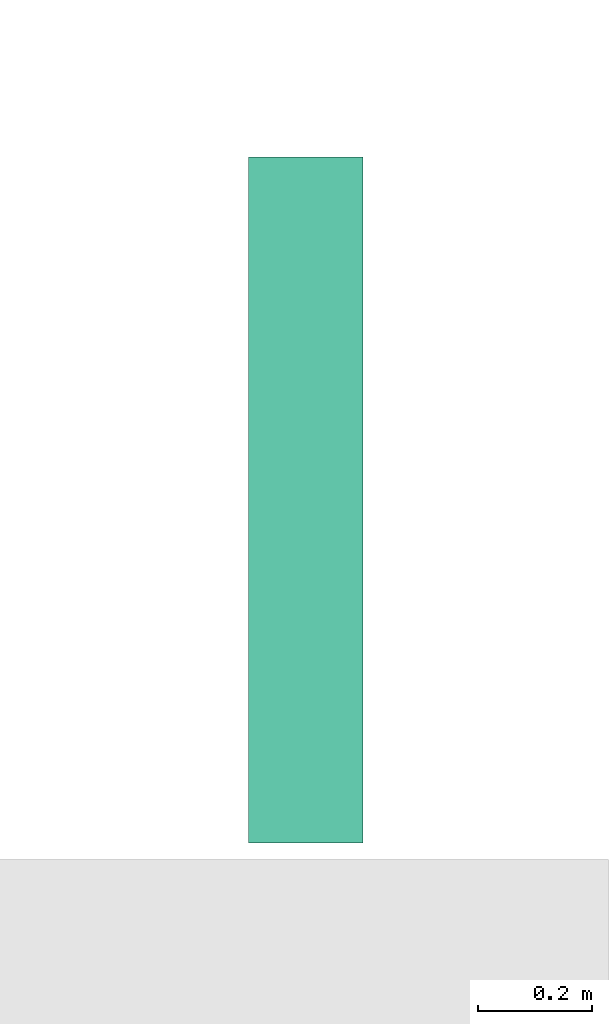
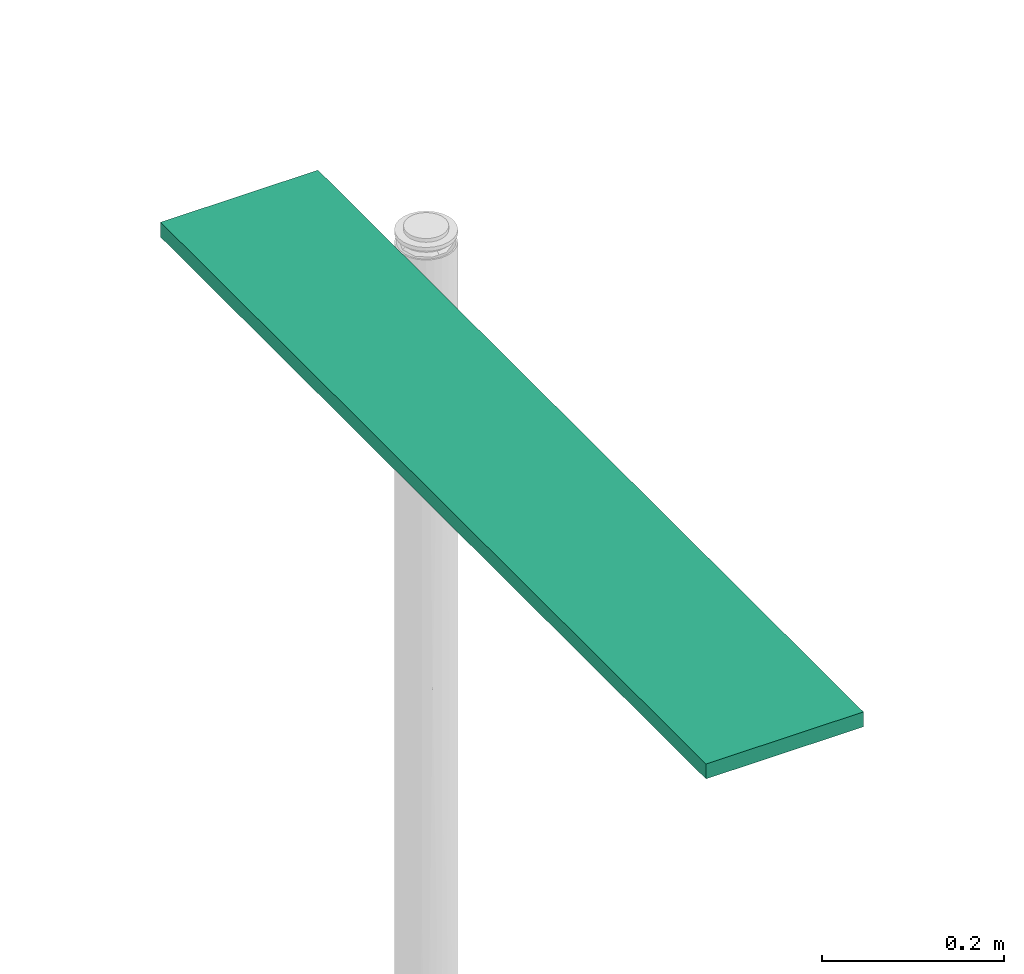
# One storey, part 2 of 153: 1 flow terminal.
"""IFC2X3 building model written with IfcOpenShell, lengths in metres."""

from ifc_helpers import new_model, entity, si_unit, converted_unit, derived_unit, direction, frame, origin, origin_2d_with_axis, place, context, subcontext, project, spatial, rectangle, extrude, source, transform, mapped, type_object, type_shapes, element, save


model = new_model("IFC2X3")

# Units and contexts
model_context = context("Model", 3, precision=1e-05, world=origin(), true_north=direction((6.12303176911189e-17, 1.0)))
body_context = subcontext(model_context, "Body", "Model", "MODEL_VIEW")
ifc_project = project(units=[si_unit("LENGTHUNIT", "METRE"), si_unit("AREAUNIT", "SQUARE_METRE"), si_unit("VOLUMEUNIT", "CUBIC_METRE"), converted_unit("PLANEANGLEUNIT", "DEGREE", entity("IfcRatioMeasure", 0.0174532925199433), si_unit("PLANEANGLEUNIT", "RADIAN"), dimensions=[0, 0, 0, 0, 0, 0, 0]), si_unit("MASSUNIT", "GRAM", prefix="KILO"), derived_unit("MASSDENSITYUNIT", [(si_unit("MASSUNIT", "GRAM", prefix="KILO"), 1), (si_unit("LENGTHUNIT", "METRE"), -3)]), si_unit("TIMEUNIT", "SECOND"), si_unit("FREQUENCYUNIT", "HERTZ"), si_unit("THERMODYNAMICTEMPERATUREUNIT", "DEGREE_CELSIUS"), derived_unit("THERMALTRANSMITTANCEUNIT", [(si_unit("MASSUNIT", "GRAM", prefix="KILO"), 1), (si_unit("THERMODYNAMICTEMPERATUREUNIT", "KELVIN"), -1), (si_unit("TIMEUNIT", "SECOND"), -3)]), derived_unit("VOLUMETRICFLOWRATEUNIT", [(si_unit("LENGTHUNIT", "METRE"), 3), (si_unit("TIMEUNIT", "SECOND"), -1)]), si_unit("ELECTRICCURRENTUNIT", "AMPERE"), si_unit("ELECTRICVOLTAGEUNIT", "VOLT"), si_unit("POWERUNIT", "WATT"), si_unit("FORCEUNIT", "NEWTON"), si_unit("ILLUMINANCEUNIT", "LUX"), si_unit("LUMINOUSFLUXUNIT", "LUMEN"), si_unit("LUMINOUSINTENSITYUNIT", "CANDELA"), derived_unit("USERDEFINED", [(si_unit("MASSUNIT", "GRAM", prefix="KILO"), -1), (si_unit("LENGTHUNIT", "METRE"), -2), (si_unit("TIMEUNIT", "SECOND"), 3), (si_unit("LUMINOUSFLUXUNIT", "LUMEN"), 1)]), derived_unit("LINEARVELOCITYUNIT", [(si_unit("LENGTHUNIT", "METRE"), 1), (si_unit("TIMEUNIT", "SECOND"), -1)]), si_unit("PRESSUREUNIT", "PASCAL"), derived_unit("USERDEFINED", [(si_unit("LENGTHUNIT", "METRE"), -2), (si_unit("MASSUNIT", "GRAM", prefix="KILO"), 1), (si_unit("TIMEUNIT", "SECOND"), -2)])], contexts=[model_context])

# Site, building, storey
site_placement = place(None, origin())
site = spatial("IfcSite", under=ifc_project, at=site_placement, Name="Default", CompositionType="ELEMENT")
building_placement = place(site_placement, origin())
building = spatial("IfcBuilding", under=site, at=building_placement, CompositionType="ELEMENT")
storey_placement = place(building_placement, frame((0.0, 0.0, -4.62)))
storey = spatial("IfcBuildingStorey", under=building, at=storey_placement, Name="S02", CompositionType="ELEMENT", Elevation=-4.62)

# Flow terminal
light_fixture_type = type_object("IfcLightFixtureType", Name="B_Réglete étanche", PredefinedType="NOTDEFINED")
shared_shape = source(origin(), body_context, "Body", "SweptSolid", [
    extrude(rectangle(XDim=0.199999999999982, YDim=1.2, at=origin_2d_with_axis()), frame((0.0, 0.0, 0.0), z_axis=(0.0, 0.0, 1.0), x_axis=(0.0, 1.0, 0.0)), (0.0, 0.0, 1.0), 0.02),
])
type_shapes(light_fixture_type, [shared_shape])
flow_terminal_placement = place(storey_placement, frame((40.6762323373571, -192.194621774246, 4.175), z_axis=(0.0, 0.0, -1.0), x_axis=(0.0, -1.0, 0.0)))
element("IfcFlowTerminal", 1, at=flow_terminal_placement, inside=storey, type_object=light_fixture_type, Name="II_PREF_Type B Réglette étanche:B_Réglete étanche", ObjectType="II_PREF_Type B Réglette étanche:B_Réglete étanche", context=body_context, shape_type="MappedRepresentation", body=[
    mapped(shared_shape, transform((0.0, 0.0, 0.0), scale=1.0)),
])

save(model, "model.ifc")
